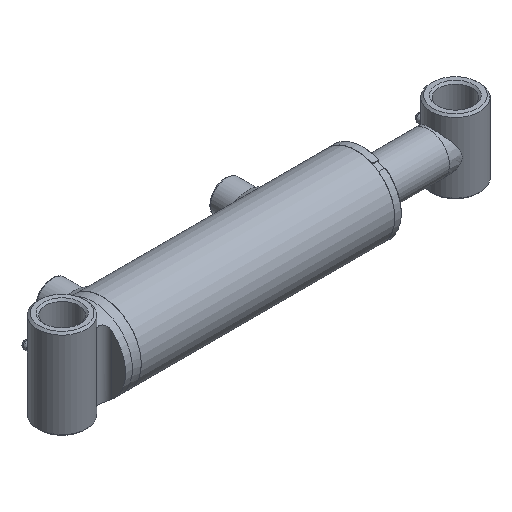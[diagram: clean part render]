
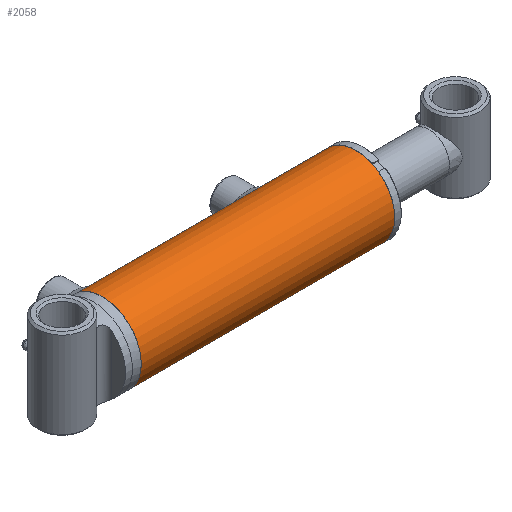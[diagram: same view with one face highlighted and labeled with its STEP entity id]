
A CAD part, isometric view. The second image highlights one B-rep face of the part: STEP entity #2058.
In plain terms, the highlighted cylindrical face has radius 30.163 mm (diameter 60.325 mm), a full revolution.
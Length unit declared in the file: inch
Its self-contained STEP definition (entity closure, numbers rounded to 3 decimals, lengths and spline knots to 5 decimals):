
#377=FACE_BOUND('',#700,.T.);
#378=FACE_BOUND('',#701,.T.);
#379=FACE_BOUND('',#702,.T.);
#500=FACE_OUTER_BOUND('',#699,.T.);
#699=EDGE_LOOP('',(#1636));
#700=EDGE_LOOP('',(#1637));
#701=EDGE_LOOP('',(#1638));
#702=EDGE_LOOP('',(#1639));
#908=CIRCLE('',#2250,1.1875);
#912=CIRCLE('',#2258,1.1875);
#1027=B_SPLINE_CURVE_WITH_KNOTS('',3,(#4670,#4671,#4672,#4673,#4674,#4675,
#4676,#4677,#4678,#4679,#4680,#4681,#4682,#4683,#4684,#4685,#4686,#4687,
#4688,#4689,#4690,#4691,#4692,#4693,#4694,#4695,#4696,#4697,#4698,#4699,
#4700,#4701,#4702,#4703),.UNSPECIFIED.,.T.,.F.,(4,2,2,2,2,2,2,2,2,2,2,2,
2,2,2,2,4),(0.,0.18872,0.37744,0.56616,0.75487,
0.94359,1.1323,1.32102,1.50975,1.69847,
1.88719,2.0759,2.26462,2.45333,2.64205,
2.83077,3.01949),.UNSPECIFIED.);
#1029=B_SPLINE_CURVE_WITH_KNOTS('',3,(#4858,#4859,#4860,#4861,#4862,#4863,
#4864,#4865,#4866,#4867,#4868,#4869,#4870,#4871,#4872,#4873,#4874,#4875,
#4876,#4877,#4878,#4879,#4880,#4881,#4882,#4883,#4884,#4885,#4886,#4887,
#4888,#4889,#4890,#4891),.UNSPECIFIED.,.T.,.F.,(4,2,2,2,2,2,2,2,2,2,2,2,
2,2,2,2,4),(0.,0.18872,0.37744,0.56616,0.75487,
0.94359,1.1323,1.32102,1.50975,1.69847,
1.88719,2.0759,2.26462,2.45333,2.64205,
2.83077,3.01949),.UNSPECIFIED.);
#1098=VERTEX_POINT('',#4669);
#1100=VERTEX_POINT('',#4857);
#1104=VERTEX_POINT('',#4901);
#1108=VERTEX_POINT('',#4913);
#1303=EDGE_CURVE('',#1098,#1098,#1027,.T.);
#1306=EDGE_CURVE('',#1100,#1100,#1029,.T.);
#1310=EDGE_CURVE('',#1104,#1104,#908,.T.);
#1314=EDGE_CURVE('',#1108,#1108,#912,.T.);
#1636=ORIENTED_EDGE('',*,*,#1314,.T.);
#1637=ORIENTED_EDGE('',*,*,#1303,.T.);
#1638=ORIENTED_EDGE('',*,*,#1306,.T.);
#1639=ORIENTED_EDGE('',*,*,#1310,.F.);
#1980=CYLINDRICAL_SURFACE('',#2260,1.1875);
#2058=ADVANCED_FACE('',(#500,#377,#378,#379),#1980,.T.);
#2250=AXIS2_PLACEMENT_3D('',#4902,#2627,#2628);
#2258=AXIS2_PLACEMENT_3D('',#4914,#2643,#2644);
#2260=AXIS2_PLACEMENT_3D('',#4916,#2647,#2648);
#2627=DIRECTION('center_axis',(1.,0.,0.));
#2628=DIRECTION('ref_axis',(0.,-1.,0.));
#2643=DIRECTION('center_axis',(1.,0.,0.));
#2644=DIRECTION('ref_axis',(0.,-1.,0.));
#2647=DIRECTION('center_axis',(1.,0.,0.));
#2648=DIRECTION('ref_axis',(0.,-1.,0.));
#4669=CARTESIAN_POINT('',(1.94094,1.17107,-0.19685));
#4670=CARTESIAN_POINT('Ctrl Pts',(1.94094,1.17107,-0.19685));
#4671=CARTESIAN_POINT('Ctrl Pts',(1.96571,1.17107,-0.19685));
#4672=CARTESIAN_POINT('Ctrl Pts',(1.9921,1.17194,-0.19189));
#4673=CARTESIAN_POINT('Ctrl Pts',(2.04058,1.17505,-0.17179));
#4674=CARTESIAN_POINT('Ctrl Pts',(2.06269,1.17725,-0.15665));
#4675=CARTESIAN_POINT('Ctrl Pts',(2.09759,1.18137,-0.12174));
#4676=CARTESIAN_POINT('Ctrl Pts',(2.11273,1.18356,-0.09964));
#4677=CARTESIAN_POINT('Ctrl Pts',(2.13284,1.18665,-0.05115));
#4678=CARTESIAN_POINT('Ctrl Pts',(2.1378,1.1875,-0.02477));
#4679=CARTESIAN_POINT('Ctrl Pts',(2.1378,1.1875,0.02477));
#4680=CARTESIAN_POINT('Ctrl Pts',(2.13284,1.18665,0.05115));
#4681=CARTESIAN_POINT('Ctrl Pts',(2.11273,1.18356,0.09964));
#4682=CARTESIAN_POINT('Ctrl Pts',(2.09759,1.18137,0.12174));
#4683=CARTESIAN_POINT('Ctrl Pts',(2.06269,1.17725,0.15665));
#4684=CARTESIAN_POINT('Ctrl Pts',(2.04058,1.17505,0.17179));
#4685=CARTESIAN_POINT('Ctrl Pts',(1.9921,1.17194,0.19189));
#4686=CARTESIAN_POINT('Ctrl Pts',(1.96571,1.17107,0.19685));
#4687=CARTESIAN_POINT('Ctrl Pts',(1.91618,1.17107,0.19685));
#4688=CARTESIAN_POINT('Ctrl Pts',(1.88979,1.17194,0.19189));
#4689=CARTESIAN_POINT('Ctrl Pts',(1.84131,1.17505,0.17179));
#4690=CARTESIAN_POINT('Ctrl Pts',(1.8192,1.17725,0.15665));
#4691=CARTESIAN_POINT('Ctrl Pts',(1.7843,1.18137,0.12174));
#4692=CARTESIAN_POINT('Ctrl Pts',(1.76916,1.18356,0.09964));
#4693=CARTESIAN_POINT('Ctrl Pts',(1.74905,1.18665,0.05115));
#4694=CARTESIAN_POINT('Ctrl Pts',(1.74409,1.1875,0.02477));
#4695=CARTESIAN_POINT('Ctrl Pts',(1.74409,1.1875,-0.02477));
#4696=CARTESIAN_POINT('Ctrl Pts',(1.74905,1.18665,-0.05115));
#4697=CARTESIAN_POINT('Ctrl Pts',(1.76916,1.18356,-0.09964));
#4698=CARTESIAN_POINT('Ctrl Pts',(1.7843,1.18137,-0.12174));
#4699=CARTESIAN_POINT('Ctrl Pts',(1.8192,1.17725,-0.15665));
#4700=CARTESIAN_POINT('Ctrl Pts',(1.84131,1.17505,-0.17179));
#4701=CARTESIAN_POINT('Ctrl Pts',(1.88979,1.17194,-0.19189));
#4702=CARTESIAN_POINT('Ctrl Pts',(1.91618,1.17107,-0.19685));
#4703=CARTESIAN_POINT('Ctrl Pts',(1.94094,1.17107,-0.19685));
#4857=CARTESIAN_POINT('',(-3.35827,1.17107,-0.19685));
#4858=CARTESIAN_POINT('Ctrl Pts',(-3.35827,1.17107,-0.19685));
#4859=CARTESIAN_POINT('Ctrl Pts',(-3.3335,1.17107,-0.19685));
#4860=CARTESIAN_POINT('Ctrl Pts',(-3.30712,1.17194,-0.19189));
#4861=CARTESIAN_POINT('Ctrl Pts',(-3.25863,1.17505,-0.17179));
#4862=CARTESIAN_POINT('Ctrl Pts',(-3.23653,1.17725,-0.15665));
#4863=CARTESIAN_POINT('Ctrl Pts',(-3.20162,1.18137,-0.12174));
#4864=CARTESIAN_POINT('Ctrl Pts',(-3.18648,1.18356,-0.09964));
#4865=CARTESIAN_POINT('Ctrl Pts',(-3.16638,1.18665,-0.05115));
#4866=CARTESIAN_POINT('Ctrl Pts',(-3.16142,1.1875,-0.02477));
#4867=CARTESIAN_POINT('Ctrl Pts',(-3.16142,1.1875,0.02477));
#4868=CARTESIAN_POINT('Ctrl Pts',(-3.16638,1.18665,0.05115));
#4869=CARTESIAN_POINT('Ctrl Pts',(-3.18648,1.18356,0.09964));
#4870=CARTESIAN_POINT('Ctrl Pts',(-3.20162,1.18137,0.12174));
#4871=CARTESIAN_POINT('Ctrl Pts',(-3.23653,1.17725,0.15665));
#4872=CARTESIAN_POINT('Ctrl Pts',(-3.25863,1.17505,0.17179));
#4873=CARTESIAN_POINT('Ctrl Pts',(-3.30712,1.17194,0.19189));
#4874=CARTESIAN_POINT('Ctrl Pts',(-3.3335,1.17107,0.19685));
#4875=CARTESIAN_POINT('Ctrl Pts',(-3.38303,1.17107,0.19685));
#4876=CARTESIAN_POINT('Ctrl Pts',(-3.40942,1.17194,0.19189));
#4877=CARTESIAN_POINT('Ctrl Pts',(-3.45791,1.17505,0.17179));
#4878=CARTESIAN_POINT('Ctrl Pts',(-3.48001,1.17725,0.15665));
#4879=CARTESIAN_POINT('Ctrl Pts',(-3.51491,1.18137,0.12174));
#4880=CARTESIAN_POINT('Ctrl Pts',(-3.53006,1.18356,0.09964));
#4881=CARTESIAN_POINT('Ctrl Pts',(-3.55016,1.18665,0.05115));
#4882=CARTESIAN_POINT('Ctrl Pts',(-3.55512,1.1875,0.02477));
#4883=CARTESIAN_POINT('Ctrl Pts',(-3.55512,1.1875,-0.02477));
#4884=CARTESIAN_POINT('Ctrl Pts',(-3.55016,1.18665,-0.05115));
#4885=CARTESIAN_POINT('Ctrl Pts',(-3.53006,1.18356,-0.09964));
#4886=CARTESIAN_POINT('Ctrl Pts',(-3.51491,1.18137,-0.12174));
#4887=CARTESIAN_POINT('Ctrl Pts',(-3.48001,1.17725,-0.15665));
#4888=CARTESIAN_POINT('Ctrl Pts',(-3.45791,1.17505,-0.17179));
#4889=CARTESIAN_POINT('Ctrl Pts',(-3.40942,1.17194,-0.19189));
#4890=CARTESIAN_POINT('Ctrl Pts',(-3.38303,1.17107,-0.19685));
#4891=CARTESIAN_POINT('Ctrl Pts',(-3.35827,1.17107,-0.19685));
#4901=CARTESIAN_POINT('',(3.94882,1.1875,0.));
#4902=CARTESIAN_POINT('Origin',(3.94882,0.,0.));
#4913=CARTESIAN_POINT('',(-3.78494,1.1875,0.));
#4914=CARTESIAN_POINT('Origin',(-3.78494,0.,0.));
#4916=CARTESIAN_POINT('Origin',(0.,0.,0.));
